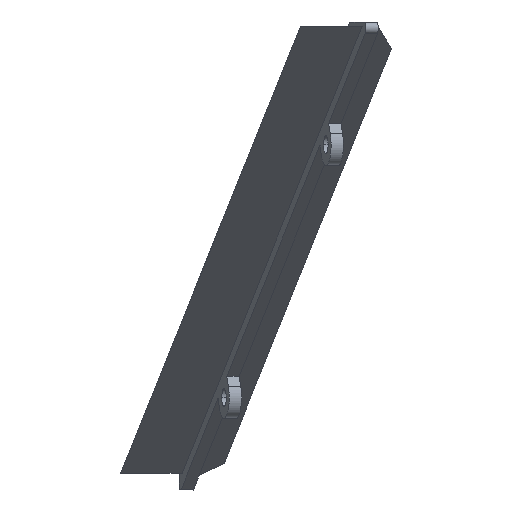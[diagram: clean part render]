
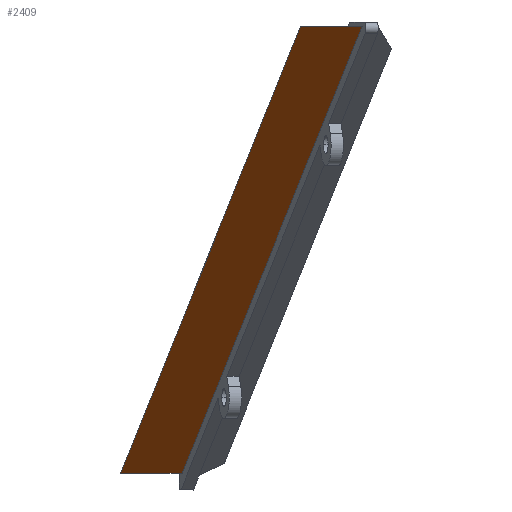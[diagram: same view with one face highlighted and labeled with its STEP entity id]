
A CAD part, left-side view. The second image highlights one B-rep face of the part: STEP entity #2409.
In plain terms, the highlighted planar face has unit normal (-0.529, 0, -0.849).
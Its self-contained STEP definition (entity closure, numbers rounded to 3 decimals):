
#881=DIRECTION('',(-0.83,-0.208,0.517));
#882=VECTOR('',#881,72.257);
#883=CARTESIAN_POINT('',(-18.1,66.475,42.812));
#884=LINE('',#883,#882);
#893=DIRECTION('',(0.,1.,0.));
#894=VECTOR('',#893,5.155);
#895=CARTESIAN_POINT('',(-78.075,46.255,80.191));
#896=LINE('',#895,#894);
#897=DIRECTION('',(-0.83,-0.208,0.517));
#898=VECTOR('',#897,72.257);
#899=CARTESIAN_POINT('',(-18.1,61.32,42.812));
#900=LINE('',#899,#898);
#901=DIRECTION('',(0.,1.,0.));
#902=VECTOR('',#901,5.155);
#903=CARTESIAN_POINT('',(-18.1,61.32,42.812));
#904=LINE('',#903,#902);
#909=CARTESIAN_POINT('',(-18.1,66.475,42.812));
#910=VERTEX_POINT('',#909);
#911=CARTESIAN_POINT('',(-78.075,51.411,80.191));
#912=VERTEX_POINT('',#911);
#921=CARTESIAN_POINT('',(-18.1,61.32,42.812));
#922=VERTEX_POINT('',#921);
#923=CARTESIAN_POINT('',(-78.075,46.255,80.191));
#924=VERTEX_POINT('',#923);
#2398=CARTESIAN_POINT('',(-18.1,0.,42.812));
#2399=DIRECTION('',(-0.529,0.,-0.849));
#2400=DIRECTION('',(-0.849,0.,0.529));
#2401=AXIS2_PLACEMENT_3D('',#2398,#2399,#2400);
#2402=PLANE('',#2401);
#2403=ORIENTED_EDGE('',*,*,#1155,.F.);
#2404=ORIENTED_EDGE('',*,*,#2366,.T.);
#2405=ORIENTED_EDGE('',*,*,#2379,.T.);
#2406=ORIENTED_EDGE('',*,*,#2391,.F.);
#2407=EDGE_LOOP('',(#2403,#2404,#2405,#2406));
#2408=FACE_OUTER_BOUND('',#2407,.F.);
#2409=ADVANCED_FACE('',(#2408),#2402,.T.);
#1155=EDGE_CURVE('',#922,#924,#900,.T.);
#2366=EDGE_CURVE('',#922,#910,#904,.T.);
#2379=EDGE_CURVE('',#910,#912,#884,.T.);
#2391=EDGE_CURVE('',#924,#912,#896,.T.);
